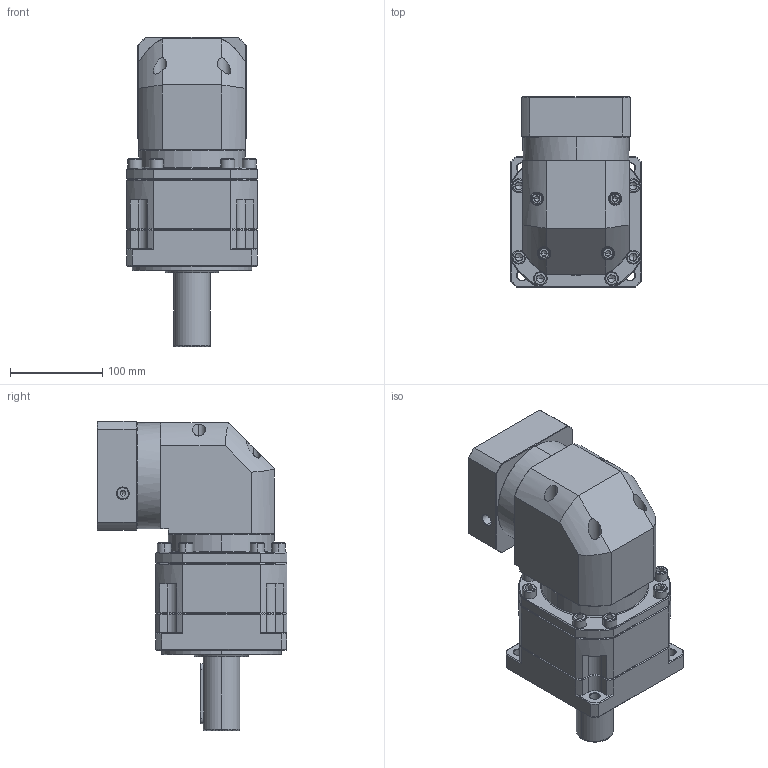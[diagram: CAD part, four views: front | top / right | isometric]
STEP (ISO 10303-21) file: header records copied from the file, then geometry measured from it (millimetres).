
FILE_DESCRIPTION (( 'STEP AP214' ), '1' );
FILE_NAME ('ZBR142A-D40-L2-P2-24-110-130-M8.step', '2023-09-02T08:09:26', ( '' ), ( '' ), 'SwSTEP 2.0', 'SolidWorks 2016', '' );
FILE_SCHEMA (( 'AUTOMOTIVE_DESIGN' ));
Length unit declared in the file: millimetre
Products named in the file (1): ZBR142A-D40-L2-P2-24-110-130-M8
Bounding box: 142 x 205.9 x 335.2 mm (x, y, z)
Volume: 4368145.4 mm3; surface area: 317201.5 mm2
Topology: 6 solids, 6 shells, 2589 faces, 6743 edges, 4280 vertices
Faces by surface type: plane 1232, cylinder 502, bspline 410, cone 399, torus 46
Entity records: 137063 total; most frequent: CARTESIAN_POINT 48530, ORIENTED_EDGE 13378, DIRECTION 10949, EDGE_CURVE 6689, VERTEX_POINT 4280, VECTOR 4275, LINE 4275, AXIS2_PLACEMENT_3D 3337
